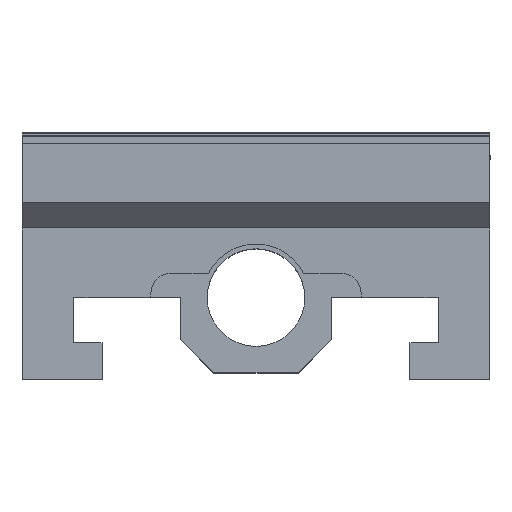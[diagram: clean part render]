
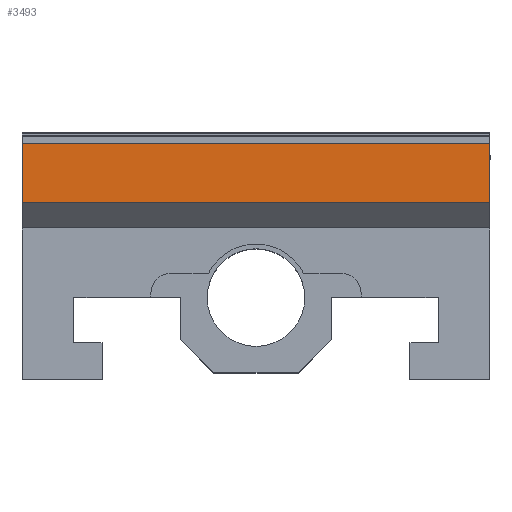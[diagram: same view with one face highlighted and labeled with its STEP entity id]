
A CAD part, top view. The second image highlights one B-rep face of the part: STEP entity #3493.
In plain terms, the highlighted planar face has unit normal (0, 0, 1).
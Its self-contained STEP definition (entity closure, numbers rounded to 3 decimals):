
#24 = PLANE ( 'NONE',  #7416 ) ;
#571 = CARTESIAN_POINT ( 'NONE',  ( -62.5, 0., 10.7 ) ) ;
#579 = EDGE_LOOP ( 'NONE', ( #7417, #5513, #6250, #6285 ) ) ;
#734 = FACE_OUTER_BOUND ( 'NONE', #579, .T. ) ;
#837 = EDGE_CURVE ( 'NONE', #989, #7210, #3601, .T. ) ;
#920 = LINE ( 'NONE', #5149, #3460 ) ;
#989 = VERTEX_POINT ( 'NONE', #3967 ) ;
#1157 = VERTEX_POINT ( 'NONE', #2914 ) ;
#1477 = LINE ( 'NONE', #6568, #7542 ) ;
#1696 = LINE ( 'NONE', #7933, #5842 ) ;
#1847 = DIRECTION ( 'NONE',  ( 0., 0., 1. ) ) ;
#1893 = DIRECTION ( 'NONE',  ( 1., 0., 0. ) ) ;
#2264 = DIRECTION ( 'NONE',  ( 0., -1., 0. ) ) ;
#2561 = CARTESIAN_POINT ( 'NONE',  ( -62.5, 41., 10.7 ) ) ;
#2914 = CARTESIAN_POINT ( 'NONE',  ( -62.3, 25.2, 10.7 ) ) ;
#2996 = CARTESIAN_POINT ( 'NONE',  ( 62.3, 41., 10.7 ) ) ;
#3104 = VERTEX_POINT ( 'NONE', #4813 ) ;
#3459 = DIRECTION ( 'NONE',  ( 0., 1., 0. ) ) ;
#3460 = VECTOR ( 'NONE', #3459, 1000. ) ;
#3493 = ADVANCED_FACE ( 'NONE', ( #734 ), #24, .T. ) ;
#3601 = LINE ( 'NONE', #2561, #4657 ) ;
#3717 = EDGE_CURVE ( 'NONE', #1157, #3104, #1477, .T. ) ;
#3967 = CARTESIAN_POINT ( 'NONE',  ( -62.3, 41., 10.7 ) ) ;
#4657 = VECTOR ( 'NONE', #5087, 1000. ) ;
#4813 = CARTESIAN_POINT ( 'NONE',  ( 62.3, 25.2, 10.7 ) ) ;
#4852 = EDGE_CURVE ( 'NONE', #7210, #3104, #1696, .T. ) ;
#5053 = EDGE_CURVE ( 'NONE', #1157, #989, #920, .T. ) ;
#5087 = DIRECTION ( 'NONE',  ( 1., 0., 0. ) ) ;
#5149 = CARTESIAN_POINT ( 'NONE',  ( -62.3, 0., 10.7 ) ) ;
#5513 = ORIENTED_EDGE ( 'NONE', *, *, #837, .F. ) ;
#5842 = VECTOR ( 'NONE', #2264, 1000. ) ;
#6250 = ORIENTED_EDGE ( 'NONE', *, *, #5053, .F. ) ;
#6285 = ORIENTED_EDGE ( 'NONE', *, *, #3717, .T. ) ;
#6474 = DIRECTION ( 'NONE',  ( 1., 0., 0. ) ) ;
#6568 = CARTESIAN_POINT ( 'NONE',  ( -62.5, 25.2, 10.7 ) ) ;
#7210 = VERTEX_POINT ( 'NONE', #2996 ) ;
#7416 = AXIS2_PLACEMENT_3D ( 'NONE', #571, #1847, #1893 ) ;
#7417 = ORIENTED_EDGE ( 'NONE', *, *, #4852, .F. ) ;
#7542 = VECTOR ( 'NONE', #6474, 1000. ) ;
#7933 = CARTESIAN_POINT ( 'NONE',  ( 62.3, 0., 10.7 ) ) ;
